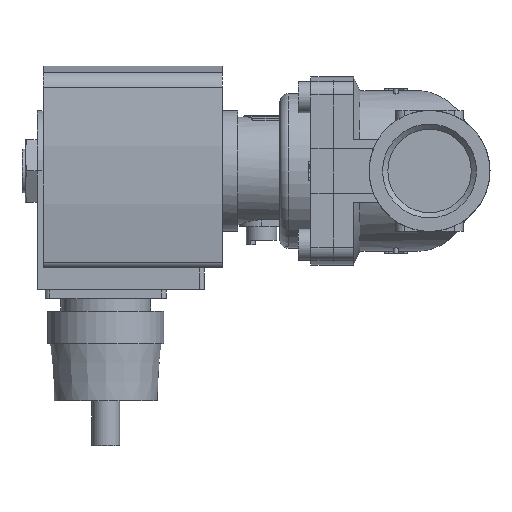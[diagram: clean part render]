
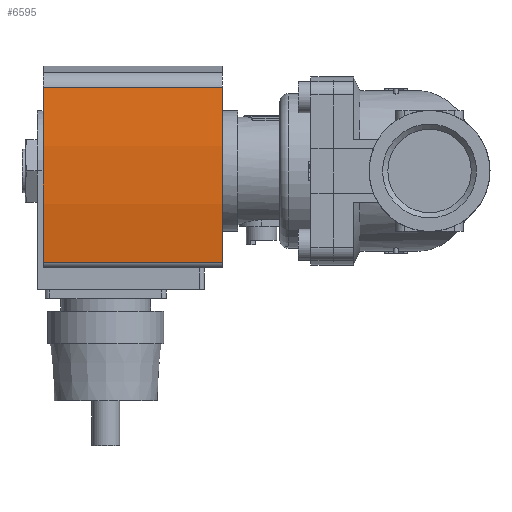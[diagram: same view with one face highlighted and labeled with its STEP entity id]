
A CAD part, left-side view. The second image highlights one B-rep face of the part: STEP entity #6595.
In plain terms, the highlighted cylindrical face has radius 130 mm (diameter 260 mm), a partial arc.
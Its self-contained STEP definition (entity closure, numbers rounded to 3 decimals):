
#234=CYLINDRICAL_SURFACE('',#7165,130.);
#679=LINE('',#10565,#1141);
#680=LINE('',#10569,#1142);
#1141=VECTOR('',#8689,1000.);
#1142=VECTOR('',#8694,1000.);
#2575=ORIENTED_EDGE('',*,*,#3478,.T.);
#2576=ORIENTED_EDGE('',*,*,#3479,.F.);
#2577=ORIENTED_EDGE('',*,*,#3467,.F.);
#2578=ORIENTED_EDGE('',*,*,#3477,.T.);
#3467=EDGE_CURVE('',#4030,#4031,#4275,.T.);
#3477=EDGE_CURVE('',#4030,#4037,#679,.T.);
#3478=EDGE_CURVE('',#4037,#4038,#4283,.T.);
#3479=EDGE_CURVE('',#4031,#4038,#680,.T.);
#4030=VERTEX_POINT('',#10545);
#4031=VERTEX_POINT('',#10547);
#4037=VERTEX_POINT('',#10564);
#4038=VERTEX_POINT('',#10568);
#4275=CIRCLE('',#7155,130.);
#4283=CIRCLE('',#7166,130.);
#4622=EDGE_LOOP('',(#2575,#2576,#2577,#2578));
#4987=FACE_BOUND('',#4622,.T.);
#6595=ADVANCED_FACE('',(#4987),#234,.T.);
#7155=AXIS2_PLACEMENT_3D('',#10546,#8667,#8668);
#7165=AXIS2_PLACEMENT_3D('',#10566,#8690,#8691);
#7166=AXIS2_PLACEMENT_3D('',#10567,#8692,#8693);
#8667=DIRECTION('',(0.,1.,0.));
#8668=DIRECTION('',(1.,0.,0.));
#8689=DIRECTION('',(0.,-1.,0.));
#8690=DIRECTION('',(0.,-1.,0.));
#8691=DIRECTION('',(0.,0.,-1.));
#8692=DIRECTION('',(0.,1.,0.));
#8693=DIRECTION('',(1.,0.,0.));
#8694=DIRECTION('',(0.,-1.,0.));
#10545=CARTESIAN_POINT('',(-20.382,14.,18.392));
#10546=CARTESIAN_POINT('',(0.,14.,-110.));
#10547=CARTESIAN_POINT('',(18.639,14.,18.657));
#10564=CARTESIAN_POINT('',(-20.382,-26.,18.392));
#10565=CARTESIAN_POINT('',(-20.382,14.,18.392));
#10566=CARTESIAN_POINT('',(0.,14.,-110.));
#10567=CARTESIAN_POINT('',(0.,-26.,-110.));
#10568=CARTESIAN_POINT('',(18.639,-26.,18.657));
#10569=CARTESIAN_POINT('',(18.639,14.,18.657));
